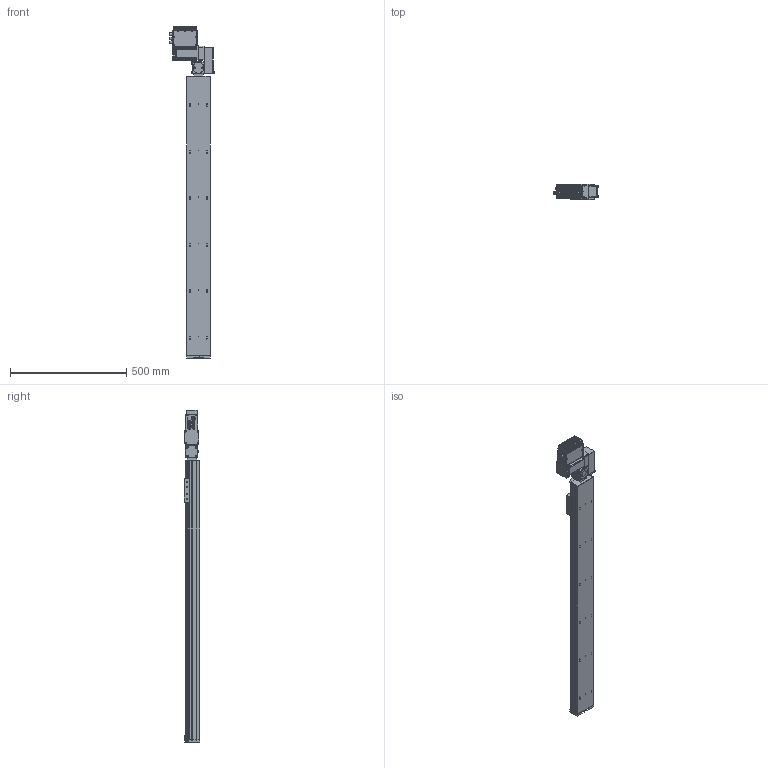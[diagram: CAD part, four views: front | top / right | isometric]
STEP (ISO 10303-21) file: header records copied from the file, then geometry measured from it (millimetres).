
FILE_DESCRIPTION (( 'STEP AP203' ), '1' );
FILE_NAME ('S10 TBN RH S1200.STEP', '2012-06-18T09:23:36', ( 'Conseil Régional Haute-Normandie' ), ( 'Conseil Régional Haute-Normandie' ), 'SwSTEP 2.0', 'SolidWorks 2010', '' );
FILE_SCHEMA (( 'CONFIG_CONTROL_DESIGN' ));
Length unit declared in the file: millimetre
Products named in the file (29): renvoi LH_Default; Plaque racord_Default; vis M5 L12_Default; vis M5 L5_Default; T_X2_00F4_X0_le contre le moteur_5; BU41 Carte Alimentation P05_3; Colonnette_3; BU45 Carte d''axe A11_5; Connecteur rond D10 3cts_5; Connecteur rond D12 4cts_5; Sub D 9cts 90_X2_00B_X0__3; Radiateur profil_X2_00E9_X0_ 100x25_3; T_X2_00F4_X0_le lat_X2_00E9_X0_rale_5; Vis TF 3 torkx_1_1; Vis TF 3 torkx; S10 TBN RH S1200; cache t皻e_Default; cache t皻e axe_Default; Cvis M5 L30_Default; plaque de bout s10_Default; Assem1_7; Moteur 60BLDC90A_3; Couvercle_3; T_X2_00F4_X0_le fond_3; Colonnette ronde_3; T_X2_00F4_X0_le Arri_X2_00E8_X0_re_5; axe 1200; embout; palette tbn
Assembly tree (65 placements, depth 3):
  S10 TBN RH S1200
    Cvis M5 L30_Default  x2
    vis M5 L12_Default  x4
    Vis TF 3 torkx  x7
    cache t皻e_Default  x2
    vis M5 L5_Default  x4
    plaque de bout s10_Default
    renvoi LH_Default
    Assem1_7
      T_X2_00F4_X0_le contre le moteur_5
      T_X2_00F4_X0_le fond_3
      Vis TF 3 torkx_1_1  x21
      Moteur 60BLDC90A_3
      Connecteur rond D10 3cts_5  x2
      Colonnette_3  x2
      Connecteur rond D12 4cts_5
      BU41 Carte Alimentation P05_3
      Sub D 9cts 90_X2_00B_X0__3
      Radiateur profil_X2_00E9_X0_ 100x25_3
      BU45 Carte d''axe A11_5
      Couvercle_3
      T_X2_00F4_X0_le Arri_X2_00E8_X0_re_5
      T_X2_00F4_X0_le lat_X2_00E9_X0_rale_5  x2
      Colonnette ronde_3
    embout
    palette tbn
    axe 1200
    cache t皻e axe_Default
    Plaque racord_Default
Bounding box: 189.8 x 66.75 x 1428.5 mm (x, y, z)
Volume: 7108395.7 mm3; surface area: 901108.5 mm2
Topology: 64 solids, 64 shells, 2408 faces, 6017 edges, 3891 vertices
Faces by surface type: plane 1146, cylinder 1039, cone 188, bspline 32, torus 3
Entity records: 48014 total; most frequent: CARTESIAN_POINT 8625, DIRECTION 7742, ORIENTED_EDGE 7038, EDGE_CURVE 3519, AXIS2_PLACEMENT_3D 2869, VERTEX_POINT 2297, LINE 2004, VECTOR 2004
